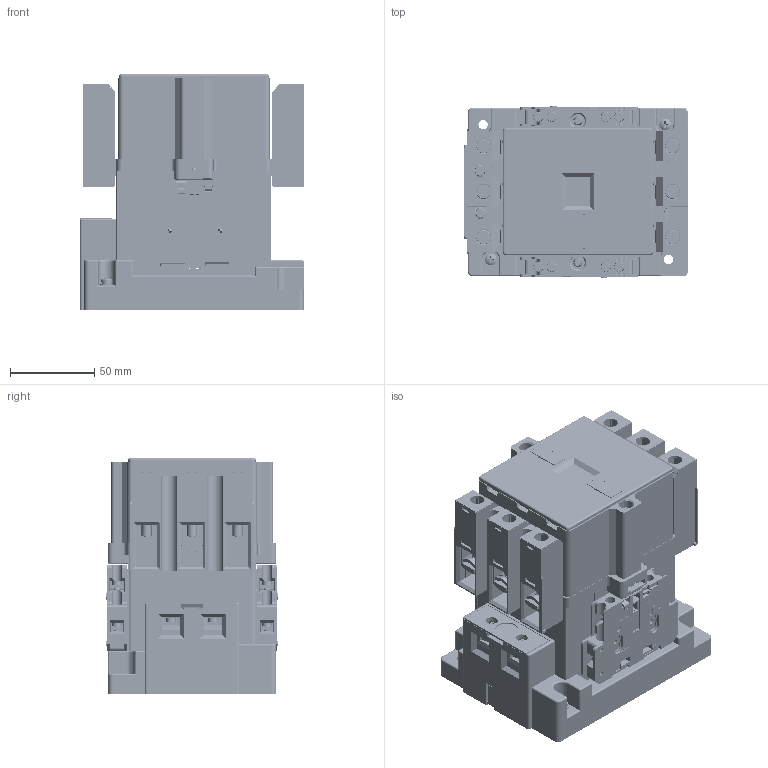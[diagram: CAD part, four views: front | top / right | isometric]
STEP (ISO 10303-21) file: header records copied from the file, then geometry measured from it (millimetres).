
FILE_DESCRIPTION((''),'2;1');
FILE_NAME('85','2024-06-04T',('qinxiong.ji'),(''),'PRO/ENGINEER BY PARAMETRIC TECHNOLOGY CORPORATION, 2015440','PRO/ENGINEER BY PARAMETRIC TECHNOLOGY CORPORATION, 2015440','');
FILE_SCHEMA(('CONFIG_CONTROL_DESIGN'));
Products named in the file (1): 85
Bounding box: 133.25 x 101.7 x 140.1 mm (x, y, z)
Volume: 1079257.5 mm3; surface area: 294866.1 mm2
Topology: 1 solids, 20 shells, 7695 faces, 22059 edges, 14252 vertices
Faces by surface type: plane 5419, cylinder 1754, torus 194, cone 158, bspline 134, sphere 36
Entity records: 264198 total; most frequent: CARTESIAN_POINT 61221, ORIENTED_EDGE 44082, DIRECTION 40382, EDGE_CURVE 22041, VECTOR 16276, LINE 16276, VERTEX_POINT 14252, AXIS2_PLACEMENT_3D 12053
